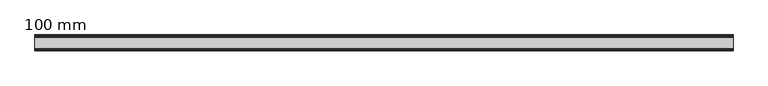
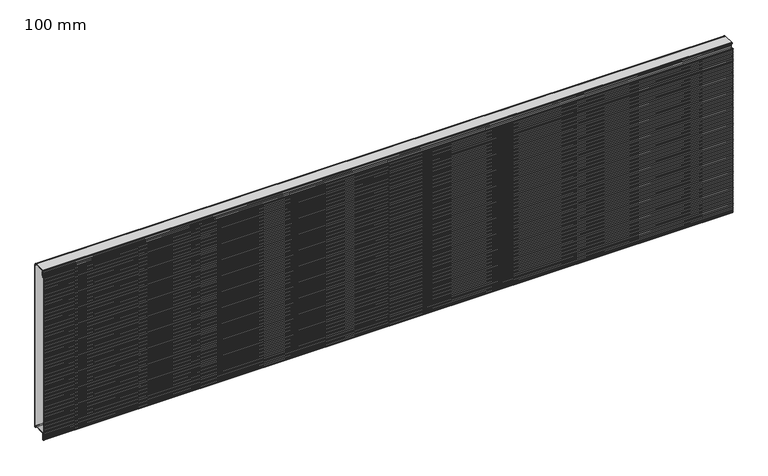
"""IFC4 building model written with IfcOpenShell, lengths in millimetres: plate geometry, HIANSA PANEL - H20.F05.001-HFM-PANELES DE FACHADA HOR - PANEL MICROPERFILADO - Panel de Muro Cortina : 100 mm."""

from ifc_helpers import new_model, si_unit, point, frame, frame_2d, origin, place, context, project, spatial, polyline, circle_curve, trimmed, segment, composite_curve, outline, extrude, source, transform, mapped, element, save


def plate_100_mm_1e766065(model_context):
    return source(origin(), model_context, "Body", "SweptSolid", [
        extrude(outline(polyline([(-84.0928552, 1122.4810465), (-83.2950639, 1122.9800953), (-13.698739, 1122.9800953), (-12.9009477, 1122.4810465), (-84.0928552, 1122.4810465)])), frame((-2200.0, 0.0, 0.0), z_axis=(1.0, 0.0, 0.0), x_axis=(0.0, 1.0, 0.0)), (0.0, 0.0, 1.0), 4400.0),
        extrude(outline(polyline([(-84.0762276, 25.6210466), (-12.9205792, 25.6210466), (-13.7002597, 25.1210465), (-83.2965471, 25.1210465), (-84.0762276, 25.6210466)])), frame((-2200.0, 0.0, 0.0), z_axis=(1.0, 0.0, 0.0), x_axis=(0.0, 1.0, 0.0)), (0.0, 0.0, 1.0), 4400.0),
        extrude(outline(composite_curve([segment(polyline([(-89.4621895, -19.2009512), (-89.4621895, 22.7800953)]), True, "CONTINUOUS"), segment(trimmed(circle_curve(frame_2d((-86.6221895, 22.7800953)), 2.84), [point((-89.4621895, 22.7800953))], [point((-86.6221895, 25.6200953))], False, "CARTESIAN"), True, "CONTINUOUS"), segment(polyline([(-86.6221895, 25.6200953), (-84.0747442, 25.6200953), (-83.2950639, 25.1200953), (-86.6221895, 25.1200953)]), True, "CONTINUOUS"), segment(trimmed(circle_curve(frame_2d((-86.6221895, 22.7800953)), 2.34), [point((-86.6221895, 25.1200953))], [point((-88.9621895, 22.7800953))], True, "CARTESIAN"), True, "CONTINUOUS"), segment(polyline([(-88.9621895, 22.7800953), (-88.9621895, -19.0009512)]), True, "CONTINUOUS"), segment(trimmed(circle_curve(frame_2d((-89.6621895, -19.0009512)), 0.7), [point((-88.9621895, -19.0009512))], [point((-89.6621895, -19.7009512))], False, "CARTESIAN"), True, "CONTINUOUS"), segment(polyline([(-89.6621895, -19.7009512), (-93.4121895, -19.7009512)]), True, "CONTINUOUS"), segment(trimmed(circle_curve(frame_2d((-93.4121895, -19.0009512)), 0.7), [point((-93.4121895, -19.7009512))], [point((-94.1121895, -19.0009512))], False, "CARTESIAN"), True, "CONTINUOUS"), segment(polyline([(-94.1121895, -19.0009512), (-94.1121895, -10.8354413)]), True, "CONTINUOUS"), segment(trimmed(circle_curve(frame_2d((-95.4121895, -10.8354413)), 1.3), [point((-94.1121895, -10.8354413))], [point((-95.4121895, -9.5354413))], True, "CARTESIAN"), True, "CONTINUOUS"), segment(polyline([(-95.4121895, -9.5354413), (-97.8016102, -9.5354413)]), True, "CONTINUOUS"), segment(trimmed(circle_curve(frame_2d((-97.8016102, -7.9354413)), 1.6), [point((-97.8016102, -9.5354413))], [point((-99.3489873, -8.3424108))], False, "CARTESIAN"), True, "CONTINUOUS"), segment(polyline([(-99.3489873, -8.3424108), (-100.0, -5.8671339), (-98.9729658, 0.1648575), (-99.9990488, 6.1645587), (-98.9729147, 12.1645587), (-99.9990488, 18.1645587), (-98.9729147, 24.1645587), (-99.9990488, 30.1645587), (-98.9729147, 36.1645587), (-99.9990488, 42.1645587), (-98.9729147, 48.1645587), (-99.9990488, 54.1645587), (-98.9729147, 60.1645587), (-99.9990488, 66.1645587), (-98.9729147, 72.1645587), (-99.9990488, 78.1645587), (-98.9729147, 84.1645587), (-99.9990488, 90.1645587), (-98.9729147, 96.1645587), (-99.9990488, 102.1645587), (-98.9729147, 108.1645587), (-99.9990488, 114.1645587), (-98.9729147, 120.1645587), (-99.9990488, 126.1645587), (-98.9729147, 132.1645587), (-99.9990488, 138.1645587), (-98.9729147, 144.1645587), (-99.9990488, 150.1645587), (-98.9729147, 156.1645587), (-99.9990488, 162.1645587), (-98.9729147, 168.1645587), (-99.9990488, 174.1645587), (-98.9729147, 180.1645587), (-99.9990488, 186.1645587), (-98.9729147, 192.1645587), (-99.9990488, 198.1645587), (-98.9729147, 204.1645587), (-99.9990488, 210.1645587), (-98.9729147, 216.1645587), (-99.9990488, 222.1645587), (-98.9729147, 228.1645587), (-99.9990488, 234.1645587), (-98.9729147, 240.1645587), (-99.9990488, 246.1645587), (-98.9729147, 252.1645587), (-99.9990488, 258.1645587), (-98.9729147, 264.1645587), (-99.9990488, 270.1645587), (-98.9729147, 276.1645587), (-99.9990488, 282.1645587), (-98.9729147, 288.1645587), (-99.9990488, 294.1645587), (-98.9729147, 300.1645587), (-99.9990488, 306.1645587), (-98.9729147, 312.1645587), (-99.9990488, 318.1645587), (-98.9729147, 324.1645587), (-99.9990488, 330.1645587), (-98.9729147, 336.1645587), (-99.9990488, 342.1645587), (-98.9729147, 348.1645587), (-99.9990488, 354.1645587), (-98.9729147, 360.1645587), (-99.9990488, 366.1645587), (-98.9729147, 372.1645587), (-99.9990488, 378.1645587), (-98.9729147, 384.1645587), (-99.9990488, 390.1645587), (-98.9729147, 396.1645587), (-99.9990488, 402.1645587), (-98.9729147, 408.1645587), (-99.9990488, 414.1645587), (-98.9729147, 420.1645587), (-99.9990488, 426.1645587), (-98.9729147, 432.1645587), (-99.9990488, 438.1645587), (-98.9729147, 444.1645587), (-99.9990488, 450.1645587), (-98.9729147, 456.1645587), (-99.9990488, 462.1645587), (-98.9729147, 468.1645587), (-99.9990488, 474.1645587), (-98.9729147, 480.1645587), (-99.9990488, 486.1645587), (-98.9729147, 492.1645587), (-99.9990488, 498.1645587), (-98.9729147, 504.1645587), (-99.9990488, 510.1645587), (-98.9729147, 516.1645587), (-99.9990488, 522.1645587), (-98.9729147, 528.1645587), (-99.9990488, 534.1645587), (-98.9729147, 540.1645587), (-99.9990488, 546.1645587), (-98.9729147, 552.1645587), (-99.9990488, 558.1645587), (-98.9729147, 564.1645587), (-99.9990488, 570.1645587), (-98.9729147, 576.1645587), (-99.9990488, 582.1645587), (-98.9729147, 588.1645587), (-99.9990488, 594.1645587), (-98.9729147, 600.1645587), (-99.9990488, 606.1645587), (-98.9729147, 612.1645587), (-99.9990488, 618.1645587), (-98.9729147, 624.1645587), (-99.9990488, 630.1645587), (-98.9729147, 636.1645587), (-99.9990488, 642.1645587), (-98.9729147, 648.1645587), (-99.9990488, 654.1645587), (-98.9729147, 660.1645587), (-99.9990488, 666.1645587), (-98.9729147, 672.1645587), (-99.9990488, 678.1645587), (-98.9729147, 684.1645587), (-99.9990488, 690.1645587), (-98.9729147, 696.1645587), (-99.9990488, 702.1645587), (-98.9729147, 708.1645587), (-99.9990488, 714.1645587), (-98.9729147, 720.1645587), (-99.9990488, 726.1645587), (-98.9729147, 732.1645587), (-99.9990488, 738.1645587), (-98.9729147, 744.1645587), (-99.9990488, 750.1645587), (-98.9729147, 756.1645587), (-99.9990488, 762.1645587), (-98.9729147, 768.1645587), (-99.9990488, 774.1645587), (-98.9729147, 780.1645587), (-99.9990488, 786.1645587), (-98.9729147, 792.1645587), (-99.9990488, 798.1645587), (-98.9729147, 804.1645587), (-99.9990488, 810.1645587), (-98.9729147, 816.1645587), (-99.9990488, 822.1645587), (-98.9729147, 828.1645587), (-99.9990488, 834.1645587), (-98.9729147, 840.1645587), (-99.9990488, 846.1645587), (-98.9729147, 852.1645587), (-99.9990488, 858.1645587), (-98.9729147, 864.1645587), (-99.9990488, 870.1645587), (-98.9729147, 876.1645587), (-99.9990488, 882.1645587), (-98.9729147, 888.1645587), (-99.9990488, 894.1645587), (-98.9729147, 900.1645587), (-99.9990488, 906.1645587), (-98.9729147, 912.1645587), (-99.9990488, 918.1645587), (-98.9729147, 924.1645587), (-99.9990488, 930.1645587), (-98.9729147, 936.1645587), (-99.9990488, 942.1645587), (-98.9729147, 948.1645587), (-99.9990488, 954.1645587), (-98.9729147, 960.1645587), (-99.9990488, 966.1645587), (-98.9729147, 972.1645587), (-99.9990488, 978.1645587), (-98.9729147, 984.1645587), (-99.9990488, 990.1645587), (-98.9729147, 996.1645587), (-99.9990488, 1002.1645587), (-98.9729147, 1008.1645587), (-99.9990488, 1014.1645587), (-98.9729147, 1020.1645587), (-99.9990488, 1026.1645587), (-98.9729147, 1032.1645587), (-99.9990488, 1038.1645587), (-98.9729147, 1044.1645587), (-99.9990488, 1050.1645587), (-98.9729147, 1056.1645587), (-99.9990488, 1062.1645587), (-98.9729147, 1068.1645587), (-99.9990488, 1074.1645587), (-98.9729658, 1080.1642599), (-100.0, 1086.1962513), (-99.3489873, 1088.6715282)]), True, "CONTINUOUS"), segment(trimmed(circle_curve(frame_2d((-97.8016102, 1088.2645587)), 1.6), [point((-99.3489873, 1088.6715282))], [point((-97.8016102, 1089.8645587))], False, "CARTESIAN"), True, "CONTINUOUS"), segment(polyline([(-97.8016102, 1089.8645587), (-95.6621895, 1089.8645587)]), True, "CONTINUOUS"), segment(trimmed(circle_curve(frame_2d((-95.6621895, 1089.1645587)), 0.7), [point((-95.6621895, 1089.8645587))], [point((-94.9621895, 1089.1645587))], False, "CARTESIAN"), True, "CONTINUOUS"), segment(polyline([(-94.9621895, 1089.1645587), (-94.9621895, 1080.4990488)]), True, "CONTINUOUS"), segment(trimmed(circle_curve(frame_2d((-93.6621895, 1080.4990488)), 1.3), [point((-94.9621895, 1080.4990488))], [point((-93.6621895, 1079.1990488))], True, "CARTESIAN"), True, "CONTINUOUS"), segment(polyline([(-93.6621895, 1079.1990488), (-89.4121895, 1079.1990488)]), True, "CONTINUOUS"), segment(trimmed(circle_curve(frame_2d((-89.4121895, 1080.4990488)), 1.3), [point((-89.4121895, 1079.1990488))], [point((-88.1121895, 1080.4990488))], True, "CARTESIAN"), True, "CONTINUOUS"), segment(polyline([(-88.1121895, 1080.4990488), (-88.1121895, 1082.1003519)]), True, "CONTINUOUS"), segment(trimmed(circle_curve(frame_2d((-86.4121895, 1082.1003519)), 1.7), [point((-88.1121895, 1082.1003519))], [point((-87.3872694, 1083.4929104))], False, "CARTESIAN"), True, "CONTINUOUS"), segment(polyline([(-87.3872694, 1083.4929104), (-81.3297519, 1087.7344298)]), True, "CONTINUOUS"), segment(trimmed(circle_curve(frame_2d((-82.3621895, 1089.2089035)), 1.8), [point((-81.3297519, 1087.7344298))], [point((-80.5621895, 1089.2089035))], True, "CARTESIAN"), True, "CONTINUOUS"), segment(polyline([(-80.5621895, 1089.2089035), (-80.5621895, 1098.3598183), (-79.8467194, 1099.5990488)]), True, "CONTINUOUS"), segment(trimmed(circle_curve(frame_2d((-80.5395397, 1099.9990488)), 0.8), [point((-79.8467194, 1099.5990488))], [point((-79.8467194, 1100.3990488))], True, "CARTESIAN"), True, "CONTINUOUS"), segment(polyline([(-79.8467194, 1100.3990488), (-80.5621895, 1101.6382793), (-80.5621895, 1110.7891941)]), True, "CONTINUOUS"), segment(trimmed(circle_curve(frame_2d((-82.3621895, 1110.7891941)), 1.8), [point((-80.5621895, 1110.7891941))], [point((-81.3297519, 1112.2636677))], True, "CARTESIAN"), True, "CONTINUOUS"), segment(polyline([(-81.3297519, 1112.2636677), (-87.3872694, 1116.5051872)]), True, "CONTINUOUS"), segment(trimmed(circle_curve(frame_2d((-86.4121895, 1117.8977457)), 1.7), [point((-87.3872694, 1116.5051872))], [point((-88.1121895, 1117.8977457))], False, "CARTESIAN"), True, "CONTINUOUS"), segment(polyline([(-88.1121895, 1117.8977457), (-88.1121895, 1121.2800953)]), True, "CONTINUOUS"), segment(trimmed(circle_curve(frame_2d((-86.4121895, 1121.2800953)), 1.7), [point((-88.1121895, 1121.2800953))], [point((-86.4121895, 1122.9800953))], False, "CARTESIAN"), True, "CONTINUOUS"), segment(polyline([(-86.4121895, 1122.9800953), (-83.2950639, 1122.9800953), (-84.0943758, 1122.4800953), (-86.4121895, 1122.4800953)]), True, "CONTINUOUS"), segment(trimmed(circle_curve(frame_2d((-86.4121895, 1121.2800953)), 1.2), [point((-86.4121895, 1122.4800953))], [point((-87.6121895, 1121.2800953))], True, "CARTESIAN"), True, "CONTINUOUS"), segment(polyline([(-87.6121895, 1121.2800953), (-87.6121895, 1117.8977457)]), True, "CONTINUOUS"), segment(trimmed(circle_curve(frame_2d((-86.4121895, 1117.8977457)), 1.2), [point((-87.6121895, 1117.8977457))], [point((-87.1004812, 1116.9147632))], True, "CARTESIAN"), True, "CONTINUOUS"), segment(polyline([(-87.1004812, 1116.9147632), (-81.0429637, 1112.6732438)]), True, "CONTINUOUS"), segment(trimmed(circle_curve(frame_2d((-82.3621895, 1110.7891941)), 2.3), [point((-81.0429637, 1112.6732438))], [point((-80.0621895, 1110.7891941))], False, "CARTESIAN"), True, "CONTINUOUS"), segment(polyline([(-80.0621895, 1110.7891941), (-80.0621895, 1101.7722539), (-79.4137067, 1100.6490488)]), True, "CONTINUOUS"), segment(trimmed(circle_curve(frame_2d((-80.5395397, 1099.9990488)), 1.3), [point((-79.4137067, 1100.6490488))], [point((-79.4137067, 1099.3490488))], False, "CARTESIAN"), True, "CONTINUOUS"), segment(polyline([(-79.4137067, 1099.3490488), (-80.0621895, 1098.2258437), (-80.0621895, 1089.2089035)]), True, "CONTINUOUS"), segment(trimmed(circle_curve(frame_2d((-82.3621895, 1089.2089035)), 2.3), [point((-80.0621895, 1089.2089035))], [point((-81.0429637, 1087.3248538))], False, "CARTESIAN"), True, "CONTINUOUS"), segment(polyline([(-81.0429637, 1087.3248538), (-87.1004812, 1083.0833344)]), True, "CONTINUOUS"), segment(trimmed(circle_curve(frame_2d((-86.4121895, 1082.1003519)), 1.2), [point((-87.1004812, 1083.0833344))], [point((-87.6121895, 1082.1003519))], True, "CARTESIAN"), True, "CONTINUOUS"), segment(polyline([(-87.6121895, 1082.1003519), (-87.6121895, 1080.4990488)]), True, "CONTINUOUS"), segment(trimmed(circle_curve(frame_2d((-89.4121895, 1080.4990488)), 1.8), [point((-87.6121895, 1080.4990488))], [point((-89.4121895, 1078.6990488))], False, "CARTESIAN"), True, "CONTINUOUS"), segment(polyline([(-89.4121895, 1078.6990488), (-93.6621895, 1078.6990488)]), True, "CONTINUOUS"), segment(trimmed(circle_curve(frame_2d((-93.6621895, 1080.4990488)), 1.8), [point((-93.6621895, 1078.6990488))], [point((-95.4621895, 1080.4990488))], False, "CARTESIAN"), True, "CONTINUOUS"), segment(polyline([(-95.4621895, 1080.4990488), (-95.4621895, 1089.3645587), (-97.8016102, 1089.3645587)]), True, "CONTINUOUS"), segment(trimmed(circle_curve(frame_2d((-97.8016102, 1088.2645587)), 1.1), [point((-97.8016102, 1089.3645587))], [point((-98.8654319, 1088.5443502))], True, "CARTESIAN"), True, "CONTINUOUS"), segment(polyline([(-98.8654319, 1088.5443502), (-99.4889499, 1086.1736137), (-98.4657383, 1080.1640732), (-99.4917893, 1074.1645587), (-98.4656553, 1068.1645587), (-99.4917893, 1062.1645587), (-98.4656553, 1056.1645587), (-99.4917893, 1050.1645587), (-98.4656553, 1044.1645587), (-99.4917893, 1038.1645587), (-98.4656553, 1032.1645587), (-99.4917893, 1026.1645587), (-98.4656553, 1020.1645587), (-99.4917893, 1014.1645587), (-98.4656553, 1008.1645587), (-99.4917893, 1002.1645587), (-98.4656553, 996.1645587), (-99.4917893, 990.1645587), (-98.4656553, 984.1645587), (-99.4917893, 978.1645587), (-98.4656553, 972.1645587), (-99.4917893, 966.1645587), (-98.4656553, 960.1645587), (-99.4917893, 954.1645587), (-98.4656553, 948.1645587), (-99.4917893, 942.1645587), (-98.4656553, 936.1645587), (-99.4917893, 930.1645587), (-98.4656553, 924.1645587), (-99.4917893, 918.1645587), (-98.4656553, 912.1645587), (-99.4917893, 906.1645587), (-98.4656553, 900.1645587), (-99.4917893, 894.1645587), (-98.4656553, 888.1645587), (-99.4917893, 882.1645587), (-98.4656553, 876.1645587), (-99.4917893, 870.1645587), (-98.4656553, 864.1645587), (-99.4917893, 858.1645587), (-98.4656553, 852.1645587), (-99.4917893, 846.1645587), (-98.4656553, 840.1645587), (-99.4917893, 834.1645587), (-98.4656553, 828.1645587), (-99.4917893, 822.1645587), (-98.4656553, 816.1645587), (-99.4917893, 810.1645587), (-98.4656553, 804.1645587), (-99.4917893, 798.1645587), (-98.4656553, 792.1645587), (-99.4917893, 786.1645587), (-98.4656553, 780.1645587), (-99.4917893, 774.1645587), (-98.4656553, 768.1645587), (-99.4917893, 762.1645587), (-98.4656553, 756.1645587), (-99.4917893, 750.1645587), (-98.4656553, 744.1645587), (-99.4917893, 738.1645587), (-98.4656553, 732.1645587), (-99.4917893, 726.1645587), (-98.4656553, 720.1645587), (-99.4917893, 714.1645587), (-98.4656553, 708.1645587), (-99.4917893, 702.1645587), (-98.4656553, 696.1645587), (-99.4917893, 690.1645587), (-98.4656553, 684.1645587), (-99.4917893, 678.1645587), (-98.4656553, 672.1645587), (-99.4917893, 666.1645587), (-98.4656553, 660.1645587), (-99.4917893, 654.1645587), (-98.4656553, 648.1645587), (-99.4917893, 642.1645587), (-98.4656553, 636.1645587), (-99.4917893, 630.1645587), (-98.4656553, 624.1645587), (-99.4917893, 618.1645587), (-98.4656553, 612.1645587), (-99.4917893, 606.1645587), (-98.4656553, 600.1645587), (-99.4917893, 594.1645587), (-98.4656553, 588.1645587), (-99.4917893, 582.1645587), (-98.4656553, 576.1645587), (-99.4917893, 570.1645587), (-98.4656553, 564.1645587), (-99.4917893, 558.1645587), (-98.4656553, 552.1645587), (-99.4917893, 546.1645587), (-98.4656553, 540.1645587), (-99.4917893, 534.1645587), (-98.4656553, 528.1645587), (-99.4917893, 522.1645587), (-98.4656553, 516.1645587), (-99.4917893, 510.1645587), (-98.4656553, 504.1645587), (-99.4917893, 498.1645587), (-98.4656553, 492.1645587), (-99.4917893, 486.1645587), (-98.4656553, 480.1645587), (-99.4917893, 474.1645587), (-98.4656553, 468.1645587), (-99.4917893, 462.1645587), (-98.4656553, 456.1645587), (-99.4917893, 450.1645587), (-98.4656553, 444.1645587), (-99.4917893, 438.1645587), (-98.4656553, 432.1645587), (-99.4917893, 426.1645587), (-98.4656553, 420.1645587), (-99.4917893, 414.1645587), (-98.4656553, 408.1645587), (-99.4917893, 402.1645587), (-98.4656553, 396.1645587), (-99.4917893, 390.1645587), (-98.4656553, 384.1645587), (-99.4917893, 378.1645587), (-98.4656553, 372.1645587), (-99.4917893, 366.1645587), (-98.4656553, 360.1645587), (-99.4917893, 354.1645587), (-98.4656553, 348.1645587), (-99.4917893, 342.1645587), (-98.4656553, 336.1645587), (-99.4917893, 330.1645587), (-98.4656553, 324.1645587), (-99.4917893, 318.1645587), (-98.4656553, 312.1645587), (-99.4917893, 306.1645587), (-98.4656553, 300.1645587), (-99.4917893, 294.1645587), (-98.4656553, 288.1645587), (-99.4917893, 282.1645587), (-98.4656553, 276.1645587), (-99.4917893, 270.1645587), (-98.4656553, 264.1645587), (-99.4917893, 258.1645587), (-98.4656553, 252.1645587), (-99.4917893, 246.1645587), (-98.4656553, 240.1645587), (-99.4917893, 234.1645587), (-98.4656553, 228.1645587), (-99.4917893, 222.1645587), (-98.4656553, 216.1645587), (-99.4917893, 210.1645587), (-98.4656553, 204.1645587), (-99.4917893, 198.1645587), (-98.4656553, 192.1645587), (-99.4917893, 186.1645587), (-98.4656553, 180.1645587), (-99.4917893, 174.1645587), (-98.4656553, 168.1645587), (-99.4917893, 162.1645587), (-98.4656553, 156.1645587), (-99.4917893, 150.1645587), (-98.4656553, 144.1645587), (-99.4917893, 138.1645587), (-98.4656553, 132.1645587), (-99.4917893, 126.1645587), (-98.4656553, 120.1645587), (-99.4917893, 114.1645587), (-98.4656553, 108.1645587), (-99.4917893, 102.1645587), (-98.4656553, 96.1645587), (-99.4917893, 90.1645587), (-98.4656553, 84.1645587), (-99.4917893, 78.1645587), (-98.4656553, 72.1645587), (-99.4917893, 66.1645587), (-98.4656553, 60.1645587), (-99.4917893, 54.1645587), (-98.4656553, 48.1645587), (-99.4917893, 42.1645587), (-98.4656553, 36.1645587), (-99.4917893, 30.1645587), (-98.4656553, 24.1645587), (-99.4917893, 18.1645587), (-98.4656553, 12.1645587), (-99.4917893, 6.1645587), (-98.4657383, 0.1650443), (-99.4889499, -5.8444963), (-98.8654319, -8.2152328)]), True, "CONTINUOUS"), segment(trimmed(circle_curve(frame_2d((-97.8016102, -7.9354413)), 1.1), [point((-98.8654319, -8.2152328))], [point((-97.8016102, -9.0354413))], True, "CARTESIAN"), True, "CONTINUOUS"), segment(polyline([(-97.8016102, -9.0354413), (-95.4121895, -9.0354413)]), True, "CONTINUOUS"), segment(trimmed(circle_curve(frame_2d((-95.4121895, -10.8354413)), 1.8), [point((-95.4121895, -9.0354413))], [point((-93.6121895, -10.8354413))], False, "CARTESIAN"), True, "CONTINUOUS"), segment(polyline([(-93.6121895, -10.8354413), (-93.6121895, -19.2009512), (-89.4621895, -19.2009512)]), True, "CONTINUOUS")], self_intersect=False)), frame((-2200.0, 0.0, 0.0), z_axis=(1.0, 0.0, 0.0), x_axis=(0.0, 1.0, 0.0)), (0.0, 0.0, 1.0), 4400.0),
        extrude(outline(composite_curve([segment(polyline([(-95.4131407, -9.0344901), (-97.8025614, -9.0344901)]), True, "CONTINUOUS"), segment(trimmed(circle_curve(frame_2d((-97.8025614, -7.9344901)), 1.1), [point((-97.8025614, -9.0344901))], [point((-98.8663831, -8.2142816))], False, "CARTESIAN"), True, "CONTINUOUS"), segment(polyline([(-98.8663831, -8.2142816), (-99.4899011, -5.8435451), (-98.4666895, 0.1659955), (-99.4927406, 6.1655099), (-98.4666065, 12.1655099), (-99.4927406, 18.1655099), (-98.4666065, 24.1655099), (-99.4927406, 30.1655099), (-98.4666065, 36.1655099), (-99.4927406, 42.1655099), (-98.4666065, 48.1655099), (-99.4927406, 54.1655099), (-98.4666065, 60.1655099), (-99.4927406, 66.1655099), (-98.4666065, 72.1655099), (-99.4927406, 78.1655099), (-98.4666065, 84.1655099), (-99.4927406, 90.1655099), (-98.4666065, 96.1655099), (-99.4927406, 102.1655099), (-98.4666065, 108.1655099), (-99.4927406, 114.1655099), (-98.4666065, 120.1655099), (-99.4927406, 126.1655099), (-98.4666065, 132.1655099), (-99.4927406, 138.1655099), (-98.4666065, 144.1655099), (-99.4927406, 150.1655099), (-98.4666065, 156.1655099), (-99.4927406, 162.1655099), (-98.4666065, 168.1655099), (-99.4927406, 174.1655099), (-98.4666065, 180.1655099), (-99.4927406, 186.1655099), (-98.4666065, 192.1655099), (-99.4927406, 198.1655099), (-98.4666065, 204.1655099), (-99.4927406, 210.1655099), (-98.4666065, 216.1655099), (-99.4927406, 222.1655099), (-98.4666065, 228.1655099), (-99.4927406, 234.1655099), (-98.4666065, 240.1655099), (-99.4927406, 246.1655099), (-98.4666065, 252.1655099), (-99.4927406, 258.1655099), (-98.4666065, 264.1655099), (-99.4927406, 270.1655099), (-98.4666065, 276.1655099), (-99.4927406, 282.1655099), (-98.4666065, 288.1655099), (-99.4927406, 294.1655099), (-98.4666065, 300.1655099), (-99.4927406, 306.1655099), (-98.4666065, 312.1655099), (-99.4927406, 318.1655099), (-98.4666065, 324.1655099), (-99.4927406, 330.1655099), (-98.4666065, 336.1655099), (-99.4927406, 342.1655099), (-98.4666065, 348.1655099), (-99.4927406, 354.1655099), (-98.4666065, 360.1655099), (-99.4927406, 366.1655099), (-98.4666065, 372.1655099), (-99.4927406, 378.1655099), (-98.4666065, 384.1655099), (-99.4927406, 390.1655099), (-98.4666065, 396.1655099), (-99.4927406, 402.1655099), (-98.4666065, 408.1655099), (-99.4927406, 414.1655099), (-98.4666065, 420.1655099), (-99.4927406, 426.1655099), (-98.4666065, 432.1655099), (-99.4927406, 438.1655099), (-98.4666065, 444.1655099), (-99.4927406, 450.1655099), (-98.4666065, 456.1655099), (-99.4927406, 462.1655099), (-98.4666065, 468.1655099), (-99.4927406, 474.1655099), (-98.4666065, 480.1655099), (-99.4927406, 486.1655099), (-98.4666065, 492.1655099), (-99.4927406, 498.1655099), (-98.4666065, 504.1655099), (-99.4927406, 510.1655099), (-98.4666065, 516.1655099), (-99.4927406, 522.1655099), (-98.4666065, 528.1655099), (-99.4927406, 534.1655099), (-98.4666065, 540.1655099), (-99.4927406, 546.1655099), (-98.4666065, 552.1655099), (-99.4927406, 558.1655099), (-98.4666065, 564.1655099), (-99.4927406, 570.1655099), (-98.4666065, 576.1655099), (-99.4927406, 582.1655099), (-98.4666065, 588.1655099), (-99.4927406, 594.1655099), (-98.4666065, 600.1655099), (-99.4927406, 606.1655099), (-98.4666065, 612.1655099), (-99.4927406, 618.1655099), (-98.4666065, 624.1655099), (-99.4927406, 630.1655099), (-98.4666065, 636.1655099), (-99.4927406, 642.1655099), (-98.4666065, 648.1655099), (-99.4927406, 654.1655099), (-98.4666065, 660.1655099), (-99.4927406, 666.1655099), (-98.4666065, 672.1655099), (-99.4927406, 678.1655099), (-98.4666065, 684.1655099), (-99.4927406, 690.1655099), (-98.4666065, 696.1655099), (-99.4927406, 702.1655099), (-98.4666065, 708.1655099), (-99.4927406, 714.1655099), (-98.4666065, 720.1655099), (-99.4927406, 726.1655099), (-98.4666065, 732.1655099), (-99.4927406, 738.1655099), (-98.4666065, 744.1655099), (-99.4927406, 750.1655099), (-98.4666065, 756.1655099), (-99.4927406, 762.1655099), (-98.4666065, 768.1655099), (-99.4927406, 774.1655099), (-98.4666065, 780.1655099), (-99.4927406, 786.1655099), (-98.4666065, 792.1655099), (-99.4927406, 798.1655099), (-98.4666065, 804.1655099), (-99.4927406, 810.1655099), (-98.4666065, 816.1655099), (-99.4927406, 822.1655099), (-98.4666065, 828.1655099), (-99.4927406, 834.1655099), (-98.4666065, 840.1655099), (-99.4927406, 846.1655099), (-98.4666065, 852.1655099), (-99.4927406, 858.1655099), (-98.4666065, 864.1655099), (-99.4927406, 870.1655099), (-98.4666065, 876.1655099), (-99.4927406, 882.1655099), (-98.4666065, 888.1655099), (-99.4927406, 894.1655099), (-98.4666065, 900.1655099), (-99.4927406, 906.1655099), (-98.4666065, 912.1655099), (-99.4927406, 918.1655099), (-98.4666065, 924.1655099), (-99.4927406, 930.1655099), (-98.4666065, 936.1655099), (-99.4927406, 942.1655099), (-98.4666065, 948.1655099), (-99.4927406, 954.1655099), (-98.4666065, 960.1655099), (-99.4927406, 966.1655099), (-98.4666065, 972.1655099), (-99.4927406, 978.1655099), (-98.4666065, 984.1655099), (-99.4927406, 990.1655099), (-98.4666065, 996.1655099), (-99.4927406, 1002.1655099), (-98.4666065, 1008.1655099), (-99.4927406, 1014.1655099), (-98.4666065, 1020.1655099), (-99.4927406, 1026.1655099), (-98.4666065, 1032.1655099), (-99.4927406, 1038.1655099), (-98.4666065, 1044.1655099), (-99.4927406, 1050.1655099), (-98.4666065, 1056.1655099), (-99.4927406, 1062.1655099), (-98.4666065, 1068.1655099), (-99.4927406, 1074.1655099), (-98.4666895, 1080.1650244), (-99.4899011, 1086.1745649), (-98.8663831, 1088.5453014)]), True, "CONTINUOUS"), segment(trimmed(circle_curve(frame_2d((-97.8025614, 1088.2655099)), 1.1), [point((-98.8663831, 1088.5453014))], [point((-97.8025614, 1089.3655099))], False, "CARTESIAN"), True, "CONTINUOUS"), segment(polyline([(-97.8025614, 1089.3655099), (-95.4631407, 1089.3655099), (-95.4631407, 1080.5)]), True, "CONTINUOUS"), segment(trimmed(circle_curve(frame_2d((-93.6631407, 1080.5)), 1.8), [point((-95.4631407, 1080.5))], [point((-93.6631407, 1078.7))], True, "CARTESIAN"), True, "CONTINUOUS"), segment(polyline([(-93.6631407, 1078.7), (-89.4131407, 1078.7)]), True, "CONTINUOUS"), segment(trimmed(circle_curve(frame_2d((-89.4131407, 1080.5)), 1.8), [point((-89.4131407, 1078.7))], [point((-87.6131407, 1080.5))], True, "CARTESIAN"), True, "CONTINUOUS"), segment(polyline([(-87.6131407, 1080.5), (-87.6131407, 1082.1013031)]), True, "CONTINUOUS"), segment(trimmed(circle_curve(frame_2d((-86.4131407, 1082.1013031)), 1.2), [point((-87.6131407, 1082.1013031))], [point((-87.1014324, 1083.0842856))], False, "CARTESIAN"), True, "CONTINUOUS"), segment(polyline([(-87.1014324, 1083.0842856), (-81.0439149, 1087.325805)]), True, "CONTINUOUS"), segment(trimmed(circle_curve(frame_2d((-82.3631408, 1089.2098547)), 2.3000001), [point((-81.0439149, 1087.325805))], [point((-80.0631407, 1089.2098547))], True, "CARTESIAN"), True, "CONTINUOUS"), segment(polyline([(-80.0631407, 1089.2098547), (-80.0631407, 1098.2267949), (-79.4146579, 1099.35)]), True, "CONTINUOUS"), segment(trimmed(circle_curve(frame_2d((-80.5404909, 1100.0)), 1.3), [point((-79.4146579, 1099.35))], [point((-79.4146579, 1100.65))], True, "CARTESIAN"), True, "CONTINUOUS"), segment(polyline([(-79.4146579, 1100.65), (-80.0631407, 1101.7732051), (-80.0631407, 1110.7901453)]), True, "CONTINUOUS"), segment(trimmed(circle_curve(frame_2d((-82.3631407, 1110.7901453)), 2.2999999), [point((-80.0631407, 1110.7901453))], [point((-81.0439149, 1112.6741949))], True, "CARTESIAN"), True, "CONTINUOUS"), segment(polyline([(-81.0439149, 1112.6741949), (-87.1014324, 1116.9157143)]), True, "CONTINUOUS"), segment(trimmed(circle_curve(frame_2d((-86.4131408, 1117.8986968)), 1.1999999), [point((-87.1014324, 1116.9157143))], [point((-87.6131407, 1117.8986968))], False, "CARTESIAN"), True, "CONTINUOUS"), segment(polyline([(-87.6131407, 1117.8986968), (-87.6131407, 1121.2810465)]), True, "CONTINUOUS"), segment(trimmed(circle_curve(frame_2d((-86.4131407, 1121.2810465)), 1.2000001), [point((-87.6131407, 1121.2810465))], [point((-86.4131407, 1122.4810465))], False, "CARTESIAN"), True, "CONTINUOUS"), segment(polyline([(-86.4131407, 1122.4810465), (-7.75, 1122.4810465)]), True, "CONTINUOUS"), segment(trimmed(circle_curve(frame_2d((-7.75, 1121.4810465)), 1.0), [point((-7.75, 1122.4810465))], [point((-6.75, 1121.4810465))], False, "CARTESIAN"), True, "CONTINUOUS"), segment(polyline([(-6.75, 1121.4810465), (-6.75, 1115.3317319)]), True, "CONTINUOUS"), segment(trimmed(circle_curve(frame_2d((-4.746, 1115.3317319)), 2.004), [point((-6.75, 1115.3317319))], [point((-4.746, 1113.3277319))], True, "CARTESIAN"), True, "CONTINUOUS"), segment(polyline([(-4.746, 1113.3277319), (-1.5, 1113.3277319)]), True, "CONTINUOUS"), segment(trimmed(circle_curve(frame_2d((-1.5, 1112.3277319)), 1.0), [point((-1.5, 1113.3277319))], [point((-0.5, 1112.3277319))], False, "CARTESIAN"), True, "CONTINUOUS"), segment(polyline([(-0.5, 1112.3277319), (-0.5, 1087.4488708), (-1.5, 1084.4488708), (-1.5, 1044.2865931), (-0.5, 1041.2865931), (-0.5, 996.4488708), (-1.5, 993.4488708), (-1.5, 953.2865931), (-0.5, 950.2865931), (-0.5, 905.4488708), (-1.5, 902.4488708), (-1.5, 862.2865931), (-0.5, 859.2865931), (-0.5, 814.4488708), (-1.5, 811.4488708), (-1.5, 771.2865931), (-0.5, 768.2865931), (-0.5, 723.4488708), (-1.5, 720.4488708), (-1.5, 680.2865931), (-0.5, 677.2865931), (-0.5, 632.4488708), (-1.5, 629.4488708), (-1.5, 589.2865931), (-0.5, 586.2865931), (-0.5, 541.4488708), (-1.5, 538.4488708), (-1.5, 498.2865931), (-0.5, 495.2865931), (-0.5, 450.4488708), (-1.5, 447.4488708), (-1.5, 407.2865931), (-0.5, 404.2865931), (-0.5, 359.4488708), (-1.5, 356.4488708), (-1.5, 316.2865931), (-0.5, 313.2865931), (-0.5, 268.4488708), (-1.5, 265.4488708), (-1.5, 225.2865931), (-0.5, 222.2865931), (-0.5, 177.4488708), (-1.5, 174.4488708), (-1.5, 134.2865931), (-0.5, 131.2865931), (-0.5, 86.4488708), (-1.5, 83.4488708), (-1.5, 43.2865931), (-0.4999995, 40.2865931), (-0.4999995, 15.3677318)]), True, "CONTINUOUS"), segment(trimmed(circle_curve(frame_2d((-1.4999993, 15.3677318)), 0.9999997), [point((-0.4999995, 15.3677318))], [point((-1.4999993, 14.3677321))], False, "CARTESIAN"), True, "CONTINUOUS"), segment(polyline([(-1.4999993, 14.3677321), (-4.4999993, 14.367726)]), True, "CONTINUOUS"), segment(trimmed(circle_curve(frame_2d((-4.4999993, 15.367732)), 1.0000061), [point((-4.4999993, 14.367726))], [point((-5.5000054, 15.367732))], False, "CARTESIAN"), True, "CONTINUOUS"), segment(polyline([(-5.5000054, 15.367732), (-5.5000054, 23.5810465)]), True, "CONTINUOUS"), segment(trimmed(circle_curve(frame_2d((-7.5400056, 23.5810465)), 2.0400001), [point((-5.5000054, 23.5810465))], [point((-7.5400056, 25.6210466))], True, "CARTESIAN"), True, "CONTINUOUS"), segment(polyline([(-7.5400056, 25.6210466), (-86.6231406, 25.6210466)]), True, "CONTINUOUS"), segment(trimmed(circle_curve(frame_2d((-86.6231406, 22.7810466)), 2.84), [point((-86.6231406, 25.6210466))], [point((-89.4631407, 22.7810466))], True, "CARTESIAN"), True, "CONTINUOUS"), segment(polyline([(-89.4631407, 22.7810466), (-89.4631407, -19.2), (-93.6131407, -19.2), (-93.6131407, -10.8344901)]), True, "CONTINUOUS"), segment(trimmed(circle_curve(frame_2d((-95.4131407, -10.8344901)), 1.8), [point((-93.6131407, -10.8344901))], [point((-95.4131407, -9.0344901))], True, "CARTESIAN"), True, "CONTINUOUS")], self_intersect=False)), frame((-2200.0, 0.0, 0.0), z_axis=(1.0, 0.0, 0.0), x_axis=(0.0, 1.0, 0.0)), (0.0, 0.0, 1.0), 4400.0),
        extrude(outline(composite_curve([segment(trimmed(circle_curve(frame_2d((-7.5400057, 23.5810465)), 2.04), [point((-7.5400057, 25.6210465))], [point((-5.5000057, 23.5810465))], False, "CARTESIAN"), True, "CONTINUOUS"), segment(polyline([(-5.5000057, 23.5810465), (-5.5000057, 15.3677319)]), True, "CONTINUOUS"), segment(trimmed(circle_curve(frame_2d((-4.5, 15.3677319)), 1.0000057), [point((-5.5000057, 15.3677319))], [point((-4.4999981, 14.3677262))], True, "CARTESIAN"), True, "CONTINUOUS"), segment(polyline([(-4.4999981, 14.3677262), (-1.4999981, 14.3677319)]), True, "CONTINUOUS"), segment(trimmed(circle_curve(frame_2d((-1.5, 15.3677319)), 1.0), [point((-1.4999981, 14.3677319))], [point((-0.5, 15.3677319))], True, "CARTESIAN"), True, "CONTINUOUS"), segment(polyline([(-0.5, 15.3677319), (-0.5, 40.2865931), (-1.5, 43.2865931), (-1.5, 83.4488708), (-0.5, 86.4488708), (-0.5, 131.2865931), (-1.5, 134.2865931), (-1.5, 174.4488708), (-0.5, 177.4488708), (-0.5, 222.2865931), (-1.5, 225.2865931), (-1.5, 265.4488708), (-0.5, 268.4488708), (-0.5, 313.2865931), (-1.5, 316.2865931), (-1.5, 356.4488708), (-0.5, 359.4488708), (-0.5, 404.2865931), (-1.5, 407.2865931), (-1.5, 447.4488708), (-0.5, 450.4488708), (-0.5, 495.2865931), (-1.5, 498.2865931), (-1.5, 538.4488708), (-0.5, 541.4488708), (-0.5, 586.2865931), (-1.5, 589.2865931), (-1.5, 629.4488708), (-0.5, 632.4488708), (-0.5, 677.2865931), (-1.5, 680.2865931), (-1.5, 720.4488708), (-0.5, 723.4488708), (-0.5, 768.2865931), (-1.5, 771.2865931), (-1.5, 811.4488708), (-0.5, 814.4488708), (-0.5, 859.2865931), (-1.5, 862.2865931), (-1.5, 902.4488708), (-0.5, 905.4488708), (-0.5, 950.2865931), (-1.5, 953.2865931), (-1.5, 993.4488708), (-0.5, 996.4488708), (-0.5, 1041.2865931), (-1.5, 1044.2865931), (-1.5, 1084.4488708), (-0.5, 1087.4488708), (-0.5, 1112.3277319)]), True, "CONTINUOUS"), segment(trimmed(circle_curve(frame_2d((-1.5, 1112.3277319)), 1.0), [point((-0.5, 1112.3277319))], [point((-1.5, 1113.3277319))], True, "CARTESIAN"), True, "CONTINUOUS"), segment(polyline([(-1.5, 1113.3277319), (-4.746, 1113.3277319)]), True, "CONTINUOUS"), segment(trimmed(circle_curve(frame_2d((-4.746, 1115.3317319)), 2.004), [point((-4.746, 1113.3277319))], [point((-6.75, 1115.3317319))], False, "CARTESIAN"), True, "CONTINUOUS"), segment(polyline([(-6.75, 1115.3317319), (-6.75, 1121.4810465)]), True, "CONTINUOUS"), segment(trimmed(circle_curve(frame_2d((-7.75, 1121.4810465)), 1.0), [point((-6.75, 1121.4810465))], [point((-7.75, 1122.4810465))], True, "CARTESIAN"), True, "CONTINUOUS"), segment(polyline([(-7.75, 1122.4810465), (-12.9009477, 1122.4810465), (-13.7002597, 1122.9810465), (-7.7500057, 1122.9810465)]), True, "CONTINUOUS"), segment(trimmed(circle_curve(frame_2d((-7.7500057, 1121.4810465)), 1.5), [point((-7.7500057, 1122.9810465))], [point((-6.2500057, 1121.4810465))], False, "CARTESIAN"), True, "CONTINUOUS"), segment(polyline([(-6.2500057, 1121.4810465), (-6.2500057, 1115.331727)]), True, "CONTINUOUS"), segment(trimmed(circle_curve(frame_2d((-4.7460057, 1115.331727)), 1.504), [point((-6.2500057, 1115.331727))], [point((-4.7460034, 1113.827727))], True, "CARTESIAN"), True, "CONTINUOUS"), segment(polyline([(-4.7460034, 1113.827727), (-1.5000023, 1113.8277319)]), True, "CONTINUOUS"), segment(trimmed(circle_curve(frame_2d((-1.5, 1112.3277319)), 1.5), [point((-1.5000023, 1113.8277319))], [point((0.0, 1112.3277319))], False, "CARTESIAN"), True, "CONTINUOUS"), segment(polyline([(0.0, 1112.3277319), (0.0, 1087.3677319), (-1.0, 1084.3677319), (-1.0, 1044.3677319), (0.0, 1041.3677319), (0.0, 996.3677319), (-1.0, 993.3677319), (-1.0, 953.3677319), (0.0, 950.3677319), (0.0, 905.3677319), (-1.0, 902.3677319), (-1.0, 862.3677319), (0.0, 859.3677319), (0.0, 814.3677319), (-1.0, 811.3677319), (-1.0, 771.3677319), (0.0, 768.3677319), (0.0, 723.3677319), (-1.0, 720.3677319), (-1.0, 680.3677319), (0.0, 677.3677319), (0.0, 632.3677319), (-1.0, 629.3677319), (-1.0, 589.3677319), (0.0, 586.3677319), (0.0, 541.3677319), (-1.0, 538.3677319), (-1.0, 498.3677319), (0.0, 495.3677319), (0.0, 450.3677319), (-1.0, 447.3677319), (-1.0, 407.3677319), (0.0, 404.3677319), (0.0, 359.3677319), (-1.0, 356.3677319), (-1.0, 316.3677319), (0.0, 313.3677319), (0.0, 268.3677319), (-1.0, 265.3677319), (-1.0, 225.3677319), (0.0, 222.3677319), (0.0, 177.3677319), (-1.0, 174.3677319), (-1.0, 134.3677319), (0.0, 131.3677319), (0.0, 86.3677319), (-1.0, 83.3677319), (-1.0, 43.3677319), (0.0, 40.3677319), (0.0, 15.3677319)]), True, "CONTINUOUS"), segment(trimmed(circle_curve(frame_2d((-1.5, 15.3677319)), 1.5), [point((0.0, 15.3677319))], [point((-1.5, 13.8677319))], False, "CARTESIAN"), True, "CONTINUOUS"), segment(polyline([(-1.5, 13.8677319), (-4.5, 13.8677319)]), True, "CONTINUOUS"), segment(trimmed(circle_curve(frame_2d((-4.5, 15.3677319)), 1.5), [point((-4.5, 13.8677319))], [point((-6.0, 15.3677319))], False, "CARTESIAN"), True, "CONTINUOUS"), segment(polyline([(-6.0, 15.3677319), (-6.0, 23.5810465)]), True, "CONTINUOUS"), segment(trimmed(circle_curve(frame_2d((-7.54, 23.5810465)), 1.54), [point((-6.0, 23.5810465))], [point((-7.54, 25.1210465))], True, "CARTESIAN"), True, "CONTINUOUS"), segment(polyline([(-7.54, 25.1210465), (-13.7002597, 25.1210465), (-12.9205793, 25.6210465), (-7.5400057, 25.6210465)]), True, "CONTINUOUS")], self_intersect=False)), frame((-2200.0, 0.0, 0.0), z_axis=(1.0, 0.0, 0.0), x_axis=(0.0, 1.0, 0.0)), (0.0, 0.0, 1.0), 4400.0),
    ])


if __name__ == "__main__":
    model = new_model("IFC4")
    model_context = context("Model", 3, world=origin())
    ifc_project = project(units=[si_unit("LENGTHUNIT", "METRE", prefix="MILLI")], contexts=[model_context])
    site = spatial("IfcSite", under=ifc_project)
    building = spatial("IfcBuilding", under=site)
    placement = place(None, origin())
    plate_100_mm_shape = plate_100_mm_1e766065(model_context)
    element("IfcPlate", 1, ObjectType="HIANSA PANEL - H20.F05.001-HFM-PANELES DE FACHADA HOR - PANEL MICROPERFILADO - Panel de Muro Cortina : 100 mm", at=placement, inside=building, context=model_context, shape_type="MappedRepresentation", body=[
        mapped(plate_100_mm_shape, transform((0.0, 0.0, 0.0), x_axis=(1.0, 0.0, 0.0), y_axis=(0.0, 1.0, 0.0), z_axis=(0.0, 0.0, 1.0))),
    ])
    save(model, "model.ifc")
